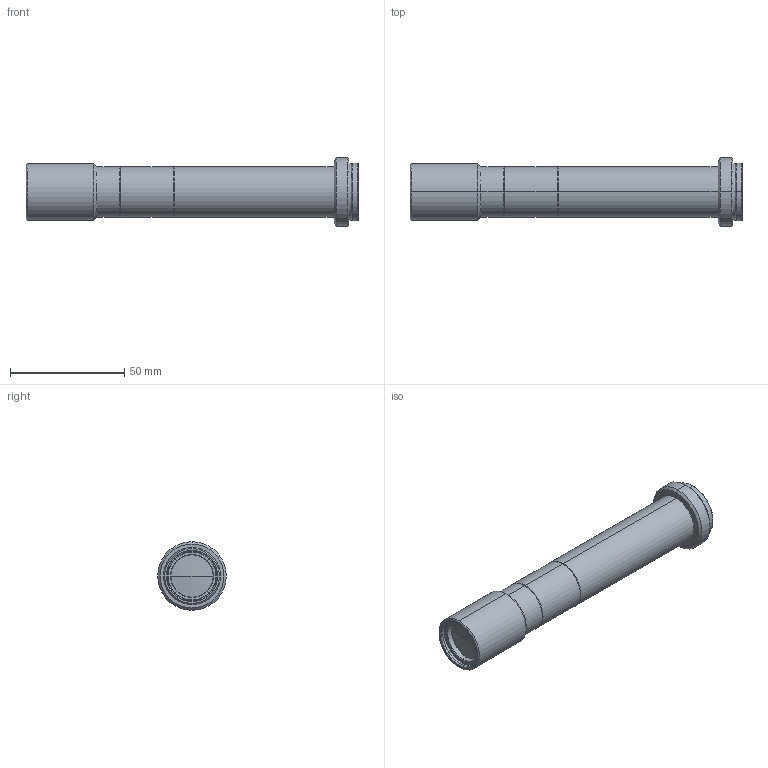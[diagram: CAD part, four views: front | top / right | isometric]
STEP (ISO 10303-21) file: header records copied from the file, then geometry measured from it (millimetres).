
FILE_DESCRIPTION (( 'STEP AP214' ), '1' );
FILE_NAME ('VS-TCH6-110.STEP', '2020-08-17T05:48:27', ( '' ), ( '' ), 'SwSTEP 2.0', 'SolidWorks 2020', '' );
FILE_SCHEMA (( 'AUTOMOTIVE_DESIGN' ));
Length unit declared in the file: millimetre
Products named in the file (1): VS-TCH6-110
Bounding box: 145.5 x 30 x 30 mm (x, y, z)
Volume: 42026.6 mm3; surface area: 16689.8 mm2
Topology: 1 solids, 1 shells, 100 faces, 202 edges, 114 vertices
Faces by surface type: cone 52, cylinder 34, plane 10, sphere 4
Entity records: 3720 total; most frequent: DIRECTION 520, CARTESIAN_POINT 417, ORIENTED_EDGE 404, AXIS2_PLACEMENT_3D 217, EDGE_CURVE 202, CIRCLE 116, VERTEX_POINT 114, EDGE_LOOP 110
